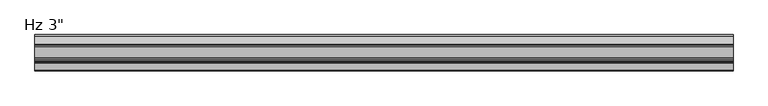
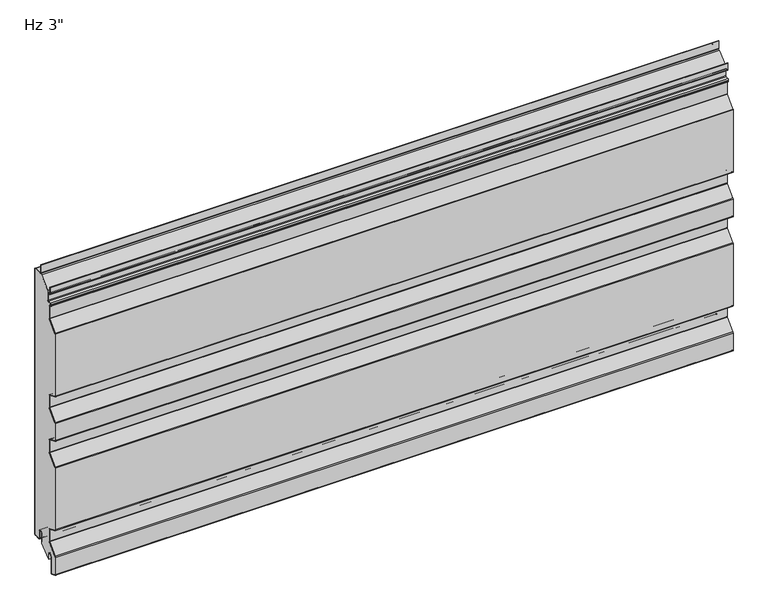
"""IFC4 building model written with IfcOpenShell, lengths in millimetres: plate geometry."""

from ifc_helpers import new_model, si_unit, point, frame, frame_2d, origin, place, context, project, spatial, polyline, circle_curve, trimmed, segment, composite_curve, outline, extrude, source, transform, mapped, element, save


def plate_3614d6f1(model_context):
    return source(origin(), model_context, "Body", "SweptSolid", [
        extrude(outline(composite_curve([segment(polyline([(-26.4011912, 19.05), (-26.4011912, -3.1976612), (-49.233822, -23.01875), (-51.3886912, -23.01875), (-51.3886912, -11.90625)]), True, "CONTINUOUS"), segment(trimmed(circle_curve(frame_2d((-56.3574412, -11.90625)), 4.96875), [point((-51.3886912, -11.90625))], [point((-61.3261912, -11.90625))], True, "CARTESIAN"), True, "CONTINUOUS"), segment(polyline([(-61.3261912, -11.90625), (-61.3261912, -48.8194049)]), True, "CONTINUOUS"), segment(trimmed(circle_curve(frame_2d((-62.7074412, -48.8194049)), 1.38125), [point((-61.3261912, -48.8194049))], [point((-63.2666208, -50.0824052))], False, "CARTESIAN"), True, "CONTINUOUS"), segment(polyline([(-63.2666208, -50.0824052), (-74.3779296, -45.1629946)]), True, "CONTINUOUS"), segment(trimmed(circle_curve(frame_2d((-73.81875, -43.8999943)), 1.38125), [point((-74.3779296, -45.1629946))], [point((-75.2, -43.8999943))], False, "CARTESIAN"), True, "CONTINUOUS"), segment(polyline([(-75.2, -43.8999943), (-75.2, -5.0536946)]), True, "CONTINUOUS"), segment(trimmed(circle_curve(frame_2d((-73.1012, -5.0536946)), 2.0988), [point((-75.2, -5.0536946))], [point((-74.6092077, -3.5939431))], False, "CARTESIAN"), True, "CONTINUOUS"), segment(polyline([(-74.6092077, -3.5939431), (-54.4145567, 17.2682996)]), True, "CONTINUOUS"), segment(trimmed(circle_curve(frame_2d((-56.2737, 19.0679503)), 2.5875), [point((-54.4145567, 17.2682996))], [point((-53.6862, 19.0679503))], True, "CARTESIAN"), True, "CONTINUOUS"), segment(polyline([(-53.6862, 19.0679503), (-53.6862, 45.5917981)]), True, "CONTINUOUS"), segment(trimmed(circle_curve(frame_2d((-56.2737, 45.5917981)), 2.5875), [point((-53.6862, 45.5917981))], [point((-55.2261871, 47.9577806))], True, "CARTESIAN"), True, "CONTINUOUS"), segment(polyline([(-55.2261871, 47.9577806), (-74.3779296, 56.4370054)]), True, "CONTINUOUS"), segment(trimmed(circle_curve(frame_2d((-73.81875, 57.7000057)), 1.38125), [point((-74.3779296, 56.4370054))], [point((-75.2, 57.7000057))], False, "CARTESIAN"), True, "CONTINUOUS"), segment(polyline([(-75.2, 57.7000057), (-75.2, 198.4367131)]), True, "CONTINUOUS"), segment(trimmed(circle_curve(frame_2d((-73.81875, 198.4367131)), 1.38125), [point((-75.2, 198.4367131))], [point((-74.8111912, 199.3973962))], False, "CARTESIAN"), True, "CONTINUOUS"), segment(polyline([(-74.8111912, 199.3973962), (-54.4145567, 220.4682996)]), True, "CONTINUOUS"), segment(trimmed(circle_curve(frame_2d((-56.2737, 222.2679503)), 2.5875), [point((-54.4145567, 220.4682996))], [point((-53.6862, 222.2679503))], True, "CARTESIAN"), True, "CONTINUOUS"), segment(polyline([(-53.6862, 222.2679503), (-53.6862, 248.7917981)]), True, "CONTINUOUS"), segment(trimmed(circle_curve(frame_2d((-56.2737, 248.7917981)), 2.5875), [point((-53.6862, 248.7917981))], [point((-55.2261871, 251.1577806))], True, "CARTESIAN"), True, "CONTINUOUS"), segment(polyline([(-55.2261871, 251.1577806), (-74.3779296, 259.6370054)]), True, "CONTINUOUS"), segment(trimmed(circle_curve(frame_2d((-73.81875, 260.9000057)), 1.38125), [point((-74.3779296, 259.6370054))], [point((-75.2, 260.9000057))], False, "CARTESIAN"), True, "CONTINUOUS"), segment(polyline([(-75.2, 260.9000057), (-75.2, 300.0367131)]), True, "CONTINUOUS"), segment(trimmed(circle_curve(frame_2d((-73.81875, 300.0367131)), 1.38125), [point((-75.2, 300.0367131))], [point((-74.8111912, 300.9973962))], False, "CARTESIAN"), True, "CONTINUOUS"), segment(polyline([(-74.8111912, 300.9973962), (-54.4145567, 322.0682996)]), True, "CONTINUOUS"), segment(trimmed(circle_curve(frame_2d((-56.2737, 323.8679503)), 2.5875), [point((-54.4145567, 322.0682996))], [point((-53.6862, 323.8679503))], True, "CARTESIAN"), True, "CONTINUOUS"), segment(polyline([(-53.6862, 323.8679503), (-53.6862, 350.3917981)]), True, "CONTINUOUS"), segment(trimmed(circle_curve(frame_2d((-56.2737, 350.3917981)), 2.5875), [point((-53.6862, 350.3917981))], [point((-55.2261871, 352.7577806))], True, "CARTESIAN"), True, "CONTINUOUS"), segment(polyline([(-55.2261871, 352.7577806), (-74.3779296, 361.2370054)]), True, "CONTINUOUS"), segment(trimmed(circle_curve(frame_2d((-73.81875, 362.5000057)), 1.38125), [point((-74.3779296, 361.2370054))], [point((-75.2, 362.5000057))], False, "CARTESIAN"), True, "CONTINUOUS"), segment(polyline([(-75.2, 362.5000057), (-75.2, 503.2367131)]), True, "CONTINUOUS"), segment(trimmed(circle_curve(frame_2d((-73.81875, 503.2367131)), 1.38125), [point((-75.2, 503.2367131))], [point((-74.8111912, 504.1973962))], False, "CARTESIAN"), True, "CONTINUOUS"), segment(polyline([(-74.8111912, 504.1973962), (-54.4145567, 525.2682996)]), True, "CONTINUOUS"), segment(trimmed(circle_curve(frame_2d((-56.2737, 527.0679503)), 2.5875), [point((-54.4145567, 525.2682996))], [point((-53.6862, 527.0679503))], True, "CARTESIAN"), True, "CONTINUOUS"), segment(polyline([(-53.6862, 527.0679503), (-53.6862, 553.5917981)]), True, "CONTINUOUS"), segment(trimmed(circle_curve(frame_2d((-56.2737, 553.5917981)), 2.5875), [point((-53.6862, 553.5917981))], [point((-55.2261871, 555.9577806))], True, "CARTESIAN"), True, "CONTINUOUS"), segment(polyline([(-55.2261871, 555.9577806), (-56.9166208, 556.7062016)]), True, "CONTINUOUS"), segment(trimmed(circle_curve(frame_2d((-56.3574412, 557.9692019)), 1.38125), [point((-56.9166208, 556.7062016))], [point((-57.7386912, 557.9692019))], False, "CARTESIAN"), True, "CONTINUOUS"), segment(polyline([(-57.7386912, 557.9692019), (-57.7386912, 560.2967085)]), True, "CONTINUOUS"), segment(trimmed(circle_curve(frame_2d((-56.3574412, 560.2967085)), 1.38125), [point((-57.7386912, 560.2967085))], [point((-56.4297302, 561.6760655))], False, "CARTESIAN"), True, "CONTINUOUS"), segment(polyline([(-56.4297302, 561.6760655), (-50.6657719, 561.9781418)]), True, "CONTINUOUS"), segment(trimmed(circle_curve(frame_2d((-50.8011912, 564.5620957)), 2.5875), [point((-50.6657719, 561.9781418))], [point((-48.2136912, 564.5620957))], True, "CARTESIAN"), True, "CONTINUOUS"), segment(polyline([(-48.2136912, 564.5620957), (-48.2136912, 586.9892934), (-24.8719682, 607.80625), (-2.3824412, 607.80625)]), True, "CONTINUOUS"), segment(trimmed(circle_curve(frame_2d((-2.3824412, 606.425)), 1.38125), [point((-2.3824412, 607.80625))], [point((-1.0011912, 606.425))], False, "CARTESIAN"), True, "CONTINUOUS"), segment(polyline([(-1.0011912, 606.425), (-1.0011912, 3.175)]), True, "CONTINUOUS"), segment(trimmed(circle_curve(frame_2d((-2.3824412, 3.175)), 1.38125), [point((-1.0011912, 3.175))], [point((-2.3824412, 1.79375))], False, "CARTESIAN"), True, "CONTINUOUS"), segment(polyline([(-2.3824412, 1.79375), (-15.0824412, 1.79375)]), True, "CONTINUOUS"), segment(trimmed(circle_curve(frame_2d((-15.0824412, 3.175)), 1.38125), [point((-15.0824412, 1.79375))], [point((-16.4636912, 3.175))], False, "CARTESIAN"), True, "CONTINUOUS"), segment(polyline([(-16.4636912, 3.175), (-16.4636912, 19.05)]), True, "CONTINUOUS"), segment(trimmed(circle_curve(frame_2d((-21.4324412, 19.05)), 4.96875), [point((-16.4636912, 19.05))], [point((-26.4011912, 19.05))], True, "CARTESIAN"), True, "CONTINUOUS")], self_intersect=False)), frame((-730.0, 0.0, 0.0), z_axis=(1.0, 0.0, 0.0), x_axis=(0.0, 1.0, 0.0)), (0.0, 0.0, 1.0), 1460.0),
        extrude(outline(composite_curve([segment(polyline([(-25.4, 0.79375), (-26.4, 0.79375), (-26.4, 19.05)]), True, "CONTINUOUS"), segment(trimmed(circle_curve(frame_2d((-21.43125, 19.05)), 4.96875), [point((-26.4, 19.05))], [point((-16.4625, 19.05))], False, "CARTESIAN"), True, "CONTINUOUS"), segment(polyline([(-16.4625, 19.05), (-16.4625, 3.175)]), True, "CONTINUOUS"), segment(trimmed(circle_curve(frame_2d((-15.08125, 3.175)), 1.38125), [point((-16.4625, 3.175))], [point((-15.08125, 1.79375))], True, "CARTESIAN"), True, "CONTINUOUS"), segment(polyline([(-15.08125, 1.79375), (-2.38125, 1.79375)]), True, "CONTINUOUS"), segment(trimmed(circle_curve(frame_2d((-2.38125, 3.175)), 1.38125), [point((-2.38125, 1.79375))], [point((-1.0, 3.175))], True, "CARTESIAN"), True, "CONTINUOUS"), segment(polyline([(-1.0, 3.175), (-1.0, 606.425)]), True, "CONTINUOUS"), segment(trimmed(circle_curve(frame_2d((-2.38125, 606.425)), 1.38125), [point((-1.0, 606.425))], [point((-2.38125, 607.80625))], True, "CARTESIAN"), True, "CONTINUOUS"), segment(polyline([(-2.38125, 607.80625), (-19.446875, 607.80625)]), True, "CONTINUOUS"), segment(trimmed(circle_curve(frame_2d((-19.446875, 610.39375)), 2.5875), [point((-19.446875, 607.80625))], [point((-22.034375, 610.39375))], False, "CARTESIAN"), True, "CONTINUOUS"), segment(polyline([(-22.034375, 610.39375), (-22.034375, 627.85625), (-21.034375, 627.85625), (-21.034375, 610.39375)]), True, "CONTINUOUS"), segment(trimmed(circle_curve(frame_2d((-19.446875, 610.39375)), 1.5875), [point((-21.034375, 610.39375))], [point((-19.446875, 608.80625))], True, "CARTESIAN"), True, "CONTINUOUS"), segment(polyline([(-19.446875, 608.80625), (-2.38125, 608.80625)]), True, "CONTINUOUS"), segment(trimmed(circle_curve(frame_2d((-2.38125, 606.425)), 2.38125), [point((-2.38125, 608.80625))], [point((0.0, 606.425))], False, "CARTESIAN"), True, "CONTINUOUS"), segment(polyline([(0.0, 606.425), (0.0, 3.175)]), True, "CONTINUOUS"), segment(trimmed(circle_curve(frame_2d((-2.38125, 3.175)), 2.38125), [point((0.0, 3.175))], [point((-2.38125, 0.79375))], False, "CARTESIAN"), True, "CONTINUOUS"), segment(polyline([(-2.38125, 0.79375), (-15.08125, 0.79375)]), True, "CONTINUOUS"), segment(trimmed(circle_curve(frame_2d((-15.08125, 3.175)), 2.38125), [point((-15.08125, 0.79375))], [point((-17.4625, 3.175))], False, "CARTESIAN"), True, "CONTINUOUS"), segment(polyline([(-17.4625, 3.175), (-17.4625, 19.05)]), True, "CONTINUOUS"), segment(trimmed(circle_curve(frame_2d((-21.43125, 19.05)), 3.96875), [point((-17.4625, 19.05))], [point((-25.4, 19.05))], True, "CARTESIAN"), True, "CONTINUOUS"), segment(polyline([(-25.4, 19.05), (-25.4, 0.79375)]), True, "CONTINUOUS")], self_intersect=False)), frame((-730.0, 0.0, 0.0), z_axis=(1.0, 0.0, 0.0), x_axis=(0.0, 1.0, 0.0)), (0.0, 0.0, 1.0), 1460.0),
        extrude(outline(composite_curve([segment(polyline([(-60.3261912, -11.90625), (-60.3261912, -48.8194049)]), True, "CONTINUOUS"), segment(trimmed(circle_curve(frame_2d((-62.7074412, -48.8194049)), 2.38125), [point((-60.3261912, -48.8194049))], [point((-63.6714567, -50.9967946))], False, "CARTESIAN"), True, "CONTINUOUS"), segment(polyline([(-63.6714567, -50.9967946), (-74.7827655, -46.0773839)]), True, "CONTINUOUS"), segment(trimmed(circle_curve(frame_2d((-73.81875, -43.8999943)), 2.38125), [point((-74.7827655, -46.0773839))], [point((-76.2, -43.8999943))], False, "CARTESIAN"), True, "CONTINUOUS"), segment(polyline([(-76.2, -43.8999943), (-76.2, -5.0536946)]), True, "CONTINUOUS"), segment(trimmed(circle_curve(frame_2d((-73.1012, -5.0536946)), 3.0988), [point((-76.2, -5.0536946))], [point((-75.3277172, -2.8984259))], False, "CARTESIAN"), True, "CONTINUOUS"), segment(polyline([(-75.3277172, -2.8984259), (-55.1330662, 17.9638168)]), True, "CONTINUOUS"), segment(trimmed(circle_curve(frame_2d((-56.2737, 19.0679503)), 1.5875), [point((-55.1330662, 17.9638168))], [point((-54.6862, 19.0679503))], True, "CARTESIAN"), True, "CONTINUOUS"), segment(polyline([(-54.6862, 19.0679503), (-54.6862, 45.5917981)]), True, "CONTINUOUS"), segment(trimmed(circle_curve(frame_2d((-56.2737, 45.5917981)), 1.5875), [point((-54.6862, 45.5917981))], [point((-55.631023, 47.0433912))], True, "CARTESIAN"), True, "CONTINUOUS"), segment(polyline([(-55.631023, 47.0433912), (-74.7827655, 55.5226161)]), True, "CONTINUOUS"), segment(trimmed(circle_curve(frame_2d((-73.81875, 57.7000057)), 2.38125), [point((-74.7827655, 55.5226161))], [point((-76.2, 57.7000057))], False, "CARTESIAN"), True, "CONTINUOUS"), segment(polyline([(-76.2, 57.7000057), (-76.2, 198.4367131)]), True, "CONTINUOUS"), segment(trimmed(circle_curve(frame_2d((-73.81875, 198.4367131)), 2.38125), [point((-76.2, 198.4367131))], [point((-75.5297007, 200.0929134))], False, "CARTESIAN"), True, "CONTINUOUS"), segment(polyline([(-75.5297007, 200.0929134), (-55.1330662, 221.1638168)]), True, "CONTINUOUS"), segment(trimmed(circle_curve(frame_2d((-56.2737, 222.2679503)), 1.5875), [point((-55.1330662, 221.1638168))], [point((-54.6862, 222.2679503))], True, "CARTESIAN"), True, "CONTINUOUS"), segment(polyline([(-54.6862, 222.2679503), (-54.6862, 248.7917981)]), True, "CONTINUOUS"), segment(trimmed(circle_curve(frame_2d((-56.2737, 248.7917981)), 1.5875), [point((-54.6862, 248.7917981))], [point((-55.631023, 250.2433912))], True, "CARTESIAN"), True, "CONTINUOUS"), segment(polyline([(-55.631023, 250.2433912), (-74.7827655, 258.7226161)]), True, "CONTINUOUS"), segment(trimmed(circle_curve(frame_2d((-73.81875, 260.9000057)), 2.38125), [point((-74.7827655, 258.7226161))], [point((-76.2, 260.9000057))], False, "CARTESIAN"), True, "CONTINUOUS"), segment(polyline([(-76.2, 260.9000057), (-76.2, 300.0367131)]), True, "CONTINUOUS"), segment(trimmed(circle_curve(frame_2d((-73.81875, 300.0367131)), 2.38125), [point((-76.2, 300.0367131))], [point((-75.5297007, 301.6929134))], False, "CARTESIAN"), True, "CONTINUOUS"), segment(polyline([(-75.5297007, 301.6929134), (-55.1330662, 322.7638168)]), True, "CONTINUOUS"), segment(trimmed(circle_curve(frame_2d((-56.2737, 323.8679503)), 1.5875), [point((-55.1330662, 322.7638168))], [point((-54.6862, 323.8679503))], True, "CARTESIAN"), True, "CONTINUOUS"), segment(polyline([(-54.6862, 323.8679503), (-54.6862, 350.3917981)]), True, "CONTINUOUS"), segment(trimmed(circle_curve(frame_2d((-56.2737, 350.3917981)), 1.5875), [point((-54.6862, 350.3917981))], [point((-55.631023, 351.8433912))], True, "CARTESIAN"), True, "CONTINUOUS"), segment(polyline([(-55.631023, 351.8433912), (-74.7827655, 360.3226161)]), True, "CONTINUOUS"), segment(trimmed(circle_curve(frame_2d((-73.81875, 362.5000057)), 2.38125), [point((-74.7827655, 360.3226161))], [point((-76.2, 362.5000057))], False, "CARTESIAN"), True, "CONTINUOUS"), segment(polyline([(-76.2, 362.5000057), (-76.2, 503.2367131)]), True, "CONTINUOUS"), segment(trimmed(circle_curve(frame_2d((-73.81875, 503.2367131)), 2.38125), [point((-76.2, 503.2367131))], [point((-75.5297007, 504.8929134))], False, "CARTESIAN"), True, "CONTINUOUS"), segment(polyline([(-75.5297007, 504.8929134), (-55.1330662, 525.9638168)]), True, "CONTINUOUS"), segment(trimmed(circle_curve(frame_2d((-56.2737, 527.0679503)), 1.5875), [point((-55.1330662, 525.9638168))], [point((-54.6862, 527.0679503))], True, "CARTESIAN"), True, "CONTINUOUS"), segment(polyline([(-54.6862, 527.0679503), (-54.6862, 553.5917981)]), True, "CONTINUOUS"), segment(trimmed(circle_curve(frame_2d((-56.2737, 553.5917981)), 1.5875), [point((-54.6862, 553.5917981))], [point((-55.631023, 555.0433912))], True, "CARTESIAN"), True, "CONTINUOUS"), segment(polyline([(-55.631023, 555.0433912), (-57.3214567, 555.7918123)]), True, "CONTINUOUS"), segment(trimmed(circle_curve(frame_2d((-56.3574412, 557.9692019)), 2.38125), [point((-57.3214567, 555.7918123))], [point((-58.7386912, 557.9692019))], False, "CARTESIAN"), True, "CONTINUOUS"), segment(polyline([(-58.7386912, 557.9692019), (-58.7386912, 560.2967085)]), True, "CONTINUOUS"), segment(trimmed(circle_curve(frame_2d((-56.3574412, 560.2967085)), 2.38125), [point((-58.7386912, 560.2967085))], [point((-56.4820662, 562.6746951))], False, "CARTESIAN"), True, "CONTINUOUS"), segment(polyline([(-56.4820662, 562.6746951), (-50.7181078, 562.9767713)]), True, "CONTINUOUS"), segment(trimmed(circle_curve(frame_2d((-50.8011912, 564.5620957)), 1.5875), [point((-50.7181078, 562.9767713))], [point((-49.2136912, 564.5620957))], True, "CARTESIAN"), True, "CONTINUOUS"), segment(polyline([(-49.2136912, 564.5620957), (-49.2136912, 579.4375)]), True, "CONTINUOUS"), segment(trimmed(circle_curve(frame_2d((-50.8011912, 579.4375)), 1.5875), [point((-49.2136912, 579.4375))], [point((-50.8011912, 581.025))], True, "CARTESIAN"), True, "CONTINUOUS"), segment(polyline([(-50.8011912, 581.025), (-54.3730662, 581.025)]), True, "CONTINUOUS"), segment(trimmed(circle_curve(frame_2d((-54.3730662, 583.40625)), 2.38125), [point((-54.3730662, 581.025))], [point((-56.7543162, 583.40625))], False, "CARTESIAN"), True, "CONTINUOUS"), segment(polyline([(-56.7543162, 583.40625), (-56.7543162, 597.69375), (-55.7543162, 597.69375), (-55.7543162, 583.40625)]), True, "CONTINUOUS"), segment(trimmed(circle_curve(frame_2d((-54.3730662, 583.40625)), 1.38125), [point((-55.7543162, 583.40625))], [point((-54.3730662, 582.025))], True, "CARTESIAN"), True, "CONTINUOUS"), segment(polyline([(-54.3730662, 582.025), (-50.8011912, 582.025)]), True, "CONTINUOUS"), segment(trimmed(circle_curve(frame_2d((-50.8011912, 579.4375)), 2.5875), [point((-50.8011912, 582.025))], [point((-48.2136912, 579.4375))], False, "CARTESIAN"), True, "CONTINUOUS"), segment(polyline([(-48.2136912, 579.4375), (-48.2136912, 564.5620957)]), True, "CONTINUOUS"), segment(trimmed(circle_curve(frame_2d((-50.8011912, 564.5620957)), 2.5875), [point((-48.2136912, 564.5620957))], [point((-50.6657719, 561.9781418))], False, "CARTESIAN"), True, "CONTINUOUS"), segment(polyline([(-50.6657719, 561.9781418), (-56.4297302, 561.6760655)]), True, "CONTINUOUS"), segment(trimmed(circle_curve(frame_2d((-56.3574412, 560.2967085)), 1.38125), [point((-56.4297302, 561.6760655))], [point((-57.7386912, 560.2967085))], True, "CARTESIAN"), True, "CONTINUOUS"), segment(polyline([(-57.7386912, 560.2967085), (-57.7386912, 557.9692019)]), True, "CONTINUOUS"), segment(trimmed(circle_curve(frame_2d((-56.3574412, 557.9692019)), 1.38125), [point((-57.7386912, 557.9692019))], [point((-56.9166208, 556.7062016))], True, "CARTESIAN"), True, "CONTINUOUS"), segment(polyline([(-56.9166208, 556.7062016), (-55.2261871, 555.9577806)]), True, "CONTINUOUS"), segment(trimmed(circle_curve(frame_2d((-56.2737, 553.5917981)), 2.5875), [point((-55.2261871, 555.9577806))], [point((-53.6862, 553.5917981))], False, "CARTESIAN"), True, "CONTINUOUS"), segment(polyline([(-53.6862, 553.5917981), (-53.6862, 527.0679503)]), True, "CONTINUOUS"), segment(trimmed(circle_curve(frame_2d((-56.2737, 527.0679503)), 2.5875), [point((-53.6862, 527.0679503))], [point((-54.4145567, 525.2682996))], False, "CARTESIAN"), True, "CONTINUOUS"), segment(polyline([(-54.4145567, 525.2682996), (-74.8111912, 504.1973962)]), True, "CONTINUOUS"), segment(trimmed(circle_curve(frame_2d((-73.81875, 503.2367131)), 1.38125), [point((-74.8111912, 504.1973962))], [point((-75.2, 503.2367131))], True, "CARTESIAN"), True, "CONTINUOUS"), segment(polyline([(-75.2, 503.2367131), (-75.2, 362.5000057)]), True, "CONTINUOUS"), segment(trimmed(circle_curve(frame_2d((-73.81875, 362.5000057)), 1.38125), [point((-75.2, 362.5000057))], [point((-74.3779296, 361.2370054))], True, "CARTESIAN"), True, "CONTINUOUS"), segment(polyline([(-74.3779296, 361.2370054), (-55.2261871, 352.7577806)]), True, "CONTINUOUS"), segment(trimmed(circle_curve(frame_2d((-56.2737, 350.3917981)), 2.5875), [point((-55.2261871, 352.7577806))], [point((-53.6862, 350.3917981))], False, "CARTESIAN"), True, "CONTINUOUS"), segment(polyline([(-53.6862, 350.3917981), (-53.6862, 323.8679503)]), True, "CONTINUOUS"), segment(trimmed(circle_curve(frame_2d((-56.2737, 323.8679503)), 2.5875), [point((-53.6862, 323.8679503))], [point((-54.4145567, 322.0682996))], False, "CARTESIAN"), True, "CONTINUOUS"), segment(polyline([(-54.4145567, 322.0682996), (-74.8111912, 300.9973962)]), True, "CONTINUOUS"), segment(trimmed(circle_curve(frame_2d((-73.81875, 300.0367131)), 1.38125), [point((-74.8111912, 300.9973962))], [point((-75.2, 300.0367131))], True, "CARTESIAN"), True, "CONTINUOUS"), segment(polyline([(-75.2, 300.0367131), (-75.2, 260.9000057)]), True, "CONTINUOUS"), segment(trimmed(circle_curve(frame_2d((-73.81875, 260.9000057)), 1.38125), [point((-75.2, 260.9000057))], [point((-74.3779296, 259.6370054))], True, "CARTESIAN"), True, "CONTINUOUS"), segment(polyline([(-74.3779296, 259.6370054), (-55.2261871, 251.1577806)]), True, "CONTINUOUS"), segment(trimmed(circle_curve(frame_2d((-56.2737, 248.7917981)), 2.5875), [point((-55.2261871, 251.1577806))], [point((-53.6862, 248.7917981))], False, "CARTESIAN"), True, "CONTINUOUS"), segment(polyline([(-53.6862, 248.7917981), (-53.6862, 222.2679503)]), True, "CONTINUOUS"), segment(trimmed(circle_curve(frame_2d((-56.2737, 222.2679503)), 2.5875), [point((-53.6862, 222.2679503))], [point((-54.4145567, 220.4682996))], False, "CARTESIAN"), True, "CONTINUOUS"), segment(polyline([(-54.4145567, 220.4682996), (-74.8111912, 199.3973962)]), True, "CONTINUOUS"), segment(trimmed(circle_curve(frame_2d((-73.81875, 198.4367131)), 1.38125), [point((-74.8111912, 199.3973962))], [point((-75.2, 198.4367131))], True, "CARTESIAN"), True, "CONTINUOUS"), segment(polyline([(-75.2, 198.4367131), (-75.2, 57.7000057)]), True, "CONTINUOUS"), segment(trimmed(circle_curve(frame_2d((-73.81875, 57.7000057)), 1.38125), [point((-75.2, 57.7000057))], [point((-74.3779296, 56.4370054))], True, "CARTESIAN"), True, "CONTINUOUS"), segment(polyline([(-74.3779296, 56.4370054), (-55.2261871, 47.9577806)]), True, "CONTINUOUS"), segment(trimmed(circle_curve(frame_2d((-56.2737, 45.5917981)), 2.5875), [point((-55.2261871, 47.9577806))], [point((-53.6862, 45.5917981))], False, "CARTESIAN"), True, "CONTINUOUS"), segment(polyline([(-53.6862, 45.5917981), (-53.6862, 19.0679503)]), True, "CONTINUOUS"), segment(trimmed(circle_curve(frame_2d((-56.2737, 19.0679503)), 2.5875), [point((-53.6862, 19.0679503))], [point((-54.4145567, 17.2682996))], False, "CARTESIAN"), True, "CONTINUOUS"), segment(polyline([(-54.4145567, 17.2682996), (-74.6092077, -3.5939431)]), True, "CONTINUOUS"), segment(trimmed(circle_curve(frame_2d((-73.1012, -5.0536946)), 2.0988), [point((-74.6092077, -3.5939431))], [point((-75.2, -5.0536946))], True, "CARTESIAN"), True, "CONTINUOUS"), segment(polyline([(-75.2, -5.0536946), (-75.2, -43.8999943)]), True, "CONTINUOUS"), segment(trimmed(circle_curve(frame_2d((-73.81875, -43.8999943)), 1.38125), [point((-75.2, -43.8999943))], [point((-74.3779296, -45.1629946))], True, "CARTESIAN"), True, "CONTINUOUS"), segment(polyline([(-74.3779296, -45.1629946), (-63.2666208, -50.0824052)]), True, "CONTINUOUS"), segment(trimmed(circle_curve(frame_2d((-62.7074412, -48.8194049)), 1.38125), [point((-63.2666208, -50.0824052))], [point((-61.3261912, -48.8194049))], True, "CARTESIAN"), True, "CONTINUOUS"), segment(polyline([(-61.3261912, -48.8194049), (-61.3261912, -11.90625)]), True, "CONTINUOUS"), segment(trimmed(circle_curve(frame_2d((-56.3574412, -11.90625)), 4.96875), [point((-61.3261912, -11.90625))], [point((-51.3886912, -11.90625))], False, "CARTESIAN"), True, "CONTINUOUS"), segment(polyline([(-51.3886912, -11.90625), (-51.3886912, -23.01875), (-52.3886912, -23.01875), (-52.3886912, -11.90625)]), True, "CONTINUOUS"), segment(trimmed(circle_curve(frame_2d((-56.3574412, -11.90625)), 3.96875), [point((-52.3886912, -11.90625))], [point((-60.3261912, -11.90625))], True, "CARTESIAN"), True, "CONTINUOUS")], self_intersect=False)), frame((-730.0, 0.0, 0.0), z_axis=(1.0, 0.0, 0.0), x_axis=(0.0, 1.0, 0.0)), (0.0, 0.0, 1.0), 1460.0),
    ])


if __name__ == "__main__":
    model = new_model("IFC4")
    model_context = context("Model", 3, world=origin())
    ifc_project = project(units=[si_unit("LENGTHUNIT", "METRE", prefix="MILLI")], contexts=[model_context])
    site = spatial("IfcSite", under=ifc_project)
    building = spatial("IfcBuilding", under=site)
    placement = place(None, origin())
    plate_shape = plate_3614d6f1(model_context)
    element("IfcPlate", 1, ObjectType="KIP-24-DWR-R19-CP-Hz-A : Hz 3\"", at=placement, inside=building, context=model_context, shape_type="MappedRepresentation", body=[
        mapped(plate_shape, transform((0.0, 0.0, 0.0), x_axis=(1.0, 0.0, 0.0), y_axis=(0.0, 1.0, 0.0), z_axis=(0.0, 0.0, 1.0))),
    ])
    save(model, "model.ifc")
